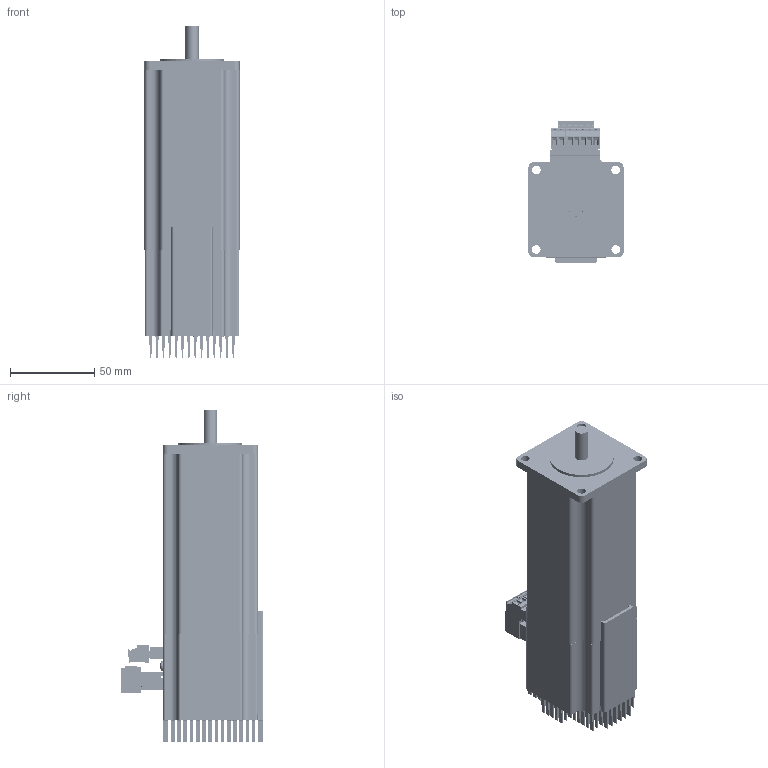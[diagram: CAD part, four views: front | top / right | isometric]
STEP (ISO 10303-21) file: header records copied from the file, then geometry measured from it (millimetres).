
FILE_DESCRIPTION(/* description */ ('Alibre Inc.'),/* implementation_level */ '2;1');
FILE_NAME(/* name */ 'export-72988631-9BF5-4904-B80F-EC9190CA57BD',/* time_stamp */ '2019-01-25T14:44:44-08:00',/* author */ (''),/* organization */ (''),/* preprocessor_version */ 'ST-DEVELOPER v17',/* originating_system */ 'Alibre',/* authorisation */ '');
FILE_SCHEMA (('AUTOMOTIVE_DESIGN'));
Length unit declared in the file: inch
Products named in the file (52): 91771A120; 91772A106
Bounding box: 56.4 x 84.65 x 196.88 mm (x, y, z)
Volume: 382039.5 mm3; surface area: 120280 mm2
Topology: 37 solids, 46 shells, 9771 faces, 27608 edges, 18030 vertices
Faces by surface type: plane 6334, cylinder 3085, cone 149, bspline 138, sphere 35, torus 30
Full cylindrical faces by diameter (mm): 0.254 x12, 0.483 x2, 0.508 x2, 0.635 x1, 1.397 x12, 1.524 x9, 1.694 x2, 2.007 x1, 2.156 x7, 2.459 x8, 2.54 x2, 2.705 x2, 2.845 x2, 3 x4, 3.175 x8, 3.556 x2, 3.571 x4, 4.089 x6, 4.216 x2, 5.1 x4, 5.182 x2, 5.563 x2, 6.35 x1, 7.925 x1, 8 x1, 38.1 x1
Entity records: 302812 total; most frequent: CARTESIAN_POINT 86435, ORIENTED_EDGE 49524, DIRECTION 35563, EDGE_CURVE 24762, VECTOR 17440, LINE 17440, VERTEX_POINT 16229, AXIS2_PLACEMENT_3D 11723
